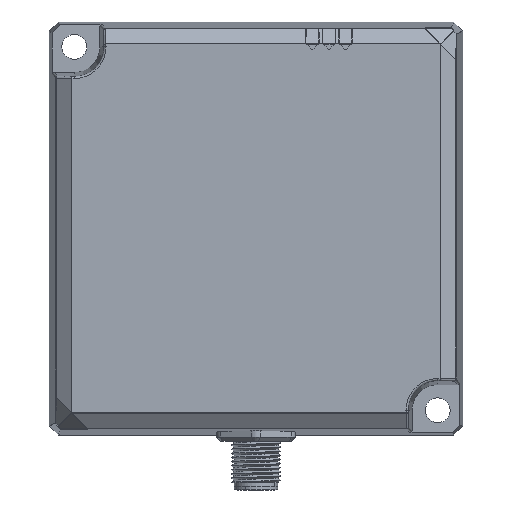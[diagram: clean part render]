
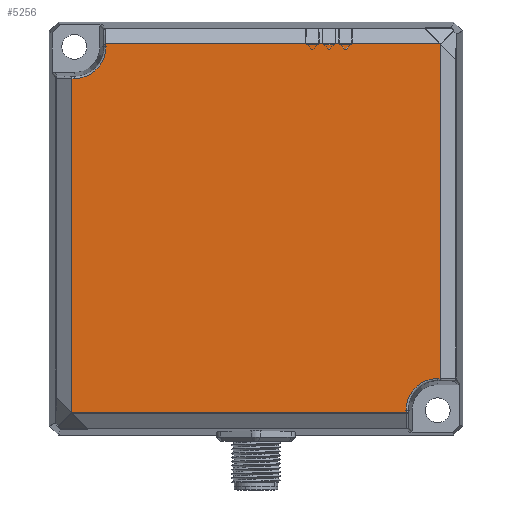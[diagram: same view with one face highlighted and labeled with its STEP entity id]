
A CAD part, front view. The second image highlights one B-rep face of the part: STEP entity #5256.
In plain terms, the highlighted planar face has unit normal (0, -1, 0) as drawn and (0, 1, 0) by its records, which use the part's own axes.
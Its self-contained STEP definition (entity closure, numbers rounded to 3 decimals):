
#21=DIRECTION('',(-1.,0.,0.));
#22=VECTOR('',#21,80.957);
#23=CARTESIAN_POINT('',(44.603,37.5,-44.717));
#24=LINE('',#23,#22);
#574=CARTESIAN_POINT('',(44.603,37.5,36.333));
#575=CARTESIAN_POINT('',(44.539,37.5,36.33));
#576=CARTESIAN_POINT('',(44.409,37.5,36.326));
#577=CARTESIAN_POINT('',(44.208,37.5,36.326));
#578=CARTESIAN_POINT('',(44.07,37.5,36.322));
#579=CARTESIAN_POINT('',(44.,37.5,36.321));
#581=CARTESIAN_POINT('',(44.,37.5,44.));
#582=DIRECTION('',(0.,1.,0.));
#583=DIRECTION('',(0.,0.,-1.));
#584=AXIS2_PLACEMENT_3D('',#581,#582,#583);
#586=CARTESIAN_POINT('',(36.321,37.5,44.));
#587=CARTESIAN_POINT('',(36.32,37.5,44.067));
#588=CARTESIAN_POINT('',(36.322,37.5,44.202));
#589=CARTESIAN_POINT('',(36.331,37.5,44.403));
#590=CARTESIAN_POINT('',(36.34,37.5,44.536));
#591=CARTESIAN_POINT('',(36.346,37.5,44.603));
#593=CARTESIAN_POINT('',(-44.,37.5,-44.));
#594=DIRECTION('',(0.,1.,0.));
#595=DIRECTION('',(-0.093,0.,0.996));
#596=AXIS2_PLACEMENT_3D('',#593,#594,#595);
#598=CARTESIAN_POINT('',(-44.601,37.5,-36.344));
#599=CARTESIAN_POINT('',(-44.536,37.5,-36.339));
#600=CARTESIAN_POINT('',(-44.405,37.5,-36.33));
#601=CARTESIAN_POINT('',(-44.204,37.5,-36.323));
#602=CARTESIAN_POINT('',(-44.068,37.5,-36.321));
#603=CARTESIAN_POINT('',(-44.,37.5,-36.321));
#605=CARTESIAN_POINT('',(-44.,37.5,-44.));
#606=DIRECTION('',(0.,1.,0.));
#607=DIRECTION('',(0.,0.,1.));
#608=AXIS2_PLACEMENT_3D('',#605,#606,#607);
#610=CARTESIAN_POINT('',(-36.321,37.5,-44.));
#611=CARTESIAN_POINT('',(-36.321,37.5,-44.068));
#612=CARTESIAN_POINT('',(-36.323,37.5,-44.204));
#613=CARTESIAN_POINT('',(-36.33,37.5,-44.405));
#614=CARTESIAN_POINT('',(-36.339,37.5,-44.536));
#615=CARTESIAN_POINT('',(-36.344,37.5,-44.601));
#617=CARTESIAN_POINT('',(-44.,37.5,-44.));
#618=DIRECTION('',(0.,1.,0.));
#619=DIRECTION('',(0.997,0.,-0.078));
#620=AXIS2_PLACEMENT_3D('',#617,#618,#619);
#622=DIRECTION('',(0.,0.,-1.));
#623=VECTOR('',#622,80.935);
#624=CARTESIAN_POINT('',(44.603,37.5,36.333));
#625=LINE('',#624,#623);
#649=DIRECTION('',(0.,0.,-1.));
#650=VECTOR('',#649,0.114);
#651=CARTESIAN_POINT('',(44.603,37.5,-44.603));
#652=LINE('',#651,#650);
#1560=DIRECTION('',(0.,0.,1.));
#1561=VECTOR('',#1560,80.957);
#1562=CARTESIAN_POINT('',(-44.717,37.5,-36.354));
#1563=LINE('',#1562,#1561);
#1631=DIRECTION('',(1.,0.,0.));
#1632=VECTOR('',#1631,0.114);
#1633=CARTESIAN_POINT('',(-44.717,37.5,44.603));
#1634=LINE('',#1633,#1632);
#1641=CARTESIAN_POINT('',(-44.603,37.5,44.603));
#1647=DIRECTION('',(1.,0.,0.));
#1648=VECTOR('',#1647,80.923);
#1649=CARTESIAN_POINT('',(-44.603,37.5,44.603));
#1650=LINE('',#1649,#1648);
#1662=CARTESIAN_POINT('',(36.321,37.5,44.603));
#1663=CARTESIAN_POINT('',(36.323,37.5,44.603));
#1664=CARTESIAN_POINT('',(36.329,37.5,44.603));
#1665=CARTESIAN_POINT('',(36.338,37.5,44.603));
#1666=CARTESIAN_POINT('',(36.343,37.5,44.603));
#1667=CARTESIAN_POINT('',(36.346,37.5,44.603));
#3550=CARTESIAN_POINT('',(44.603,37.5,-44.717));
#3551=VERTEX_POINT('',#3550);
#3552=CARTESIAN_POINT('',(-36.354,37.5,-44.717));
#3553=VERTEX_POINT('',#3552);
#3771=VERTEX_POINT('',#1641);
#3774=CARTESIAN_POINT('',(-44.717,37.5,44.603));
#3775=VERTEX_POINT('',#3774);
#3794=CARTESIAN_POINT('',(36.321,37.5,44.603));
#3795=VERTEX_POINT('',#3794);
#3797=CARTESIAN_POINT('',(44.603,37.5,36.333));
#3798=CARTESIAN_POINT('',(44.603,37.5,-44.603));
#3799=VERTEX_POINT('',#3797);
#3800=VERTEX_POINT('',#3798);
#3801=VERTEX_POINT('',#579);
#3802=CARTESIAN_POINT('',(36.321,37.5,44.));
#3803=VERTEX_POINT('',#3802);
#3804=VERTEX_POINT('',#591);
#3805=CARTESIAN_POINT('',(-44.717,37.5,-36.354));
#3806=VERTEX_POINT('',#3805);
#3807=CARTESIAN_POINT('',(-44.602,37.5,-36.344));
#3808=VERTEX_POINT('',#3807);
#3809=VERTEX_POINT('',#603);
#3810=CARTESIAN_POINT('',(-36.321,37.5,-44.));
#3811=VERTEX_POINT('',#3810);
#3812=VERTEX_POINT('',#615);
#5221=CARTESIAN_POINT('',(0.,37.5,0.));
#5222=DIRECTION('',(0.,1.,0.));
#5223=DIRECTION('',(1.,0.,0.));
#5224=AXIS2_PLACEMENT_3D('',#5221,#5222,#5223);
#5225=PLANE('',#5224);
#5227=ORIENTED_EDGE('',*,*,#5226,.F.);
#5229=ORIENTED_EDGE('',*,*,#5228,.T.);
#5231=ORIENTED_EDGE('',*,*,#5230,.T.);
#5233=ORIENTED_EDGE('',*,*,#5232,.T.);
#5235=ORIENTED_EDGE('',*,*,#5234,.F.);
#5237=ORIENTED_EDGE('',*,*,#5236,.F.);
#5239=ORIENTED_EDGE('',*,*,#5238,.F.);
#5241=ORIENTED_EDGE('',*,*,#5240,.F.);
#5243=ORIENTED_EDGE('',*,*,#5242,.T.);
#5245=ORIENTED_EDGE('',*,*,#5244,.T.);
#5247=ORIENTED_EDGE('',*,*,#5246,.T.);
#5249=ORIENTED_EDGE('',*,*,#5248,.T.);
#5250=ORIENTED_EDGE('',*,*,#5216,.T.);
#5251=ORIENTED_EDGE('',*,*,#4481,.F.);
#5253=ORIENTED_EDGE('',*,*,#5252,.F.);
#5254=EDGE_LOOP('',(#5227,#5229,#5231,#5233,#5235,#5237,#5239,#5241,#5243,#5245,
#5247,#5249,#5250,#5251,#5253));
#5255=FACE_OUTER_BOUND('',#5254,.F.);
#580=B_SPLINE_CURVE_WITH_KNOTS('',3,(#574,#575,#576,#577,#578,#579),
.UNSPECIFIED.,.F.,.F.,(4,1,1,4),(0.,0.333,0.667,1.),
.UNSPECIFIED.);
#585=CIRCLE('',#584,7.679);
#592=B_SPLINE_CURVE_WITH_KNOTS('',3,(#586,#587,#588,#589,#590,#591),
.UNSPECIFIED.,.F.,.F.,(4,1,1,4),(0.,0.333,0.667,1.),
.UNSPECIFIED.);
#597=CIRCLE('',#596,7.679);
#604=B_SPLINE_CURVE_WITH_KNOTS('',3,(#598,#599,#600,#601,#602,#603),
.UNSPECIFIED.,.F.,.F.,(4,1,1,4),(0.,0.333,0.667,1.),
.UNSPECIFIED.);
#609=CIRCLE('',#608,7.679);
#616=B_SPLINE_CURVE_WITH_KNOTS('',3,(#610,#611,#612,#613,#614,#615),
.UNSPECIFIED.,.F.,.F.,(4,1,1,4),(0.,0.333,0.667,1.),
.UNSPECIFIED.);
#621=CIRCLE('',#620,7.679);
#1668=B_SPLINE_CURVE_WITH_KNOTS('',3,(#1662,#1663,#1664,#1665,#1666,#1667),
.UNSPECIFIED.,.F.,.F.,(4,1,1,4),(0.,0.333,0.667,1.),
.UNSPECIFIED.);
#4481=EDGE_CURVE('',#3551,#3553,#24,.T.);
#5216=EDGE_CURVE('',#3812,#3553,#621,.T.);
#5226=EDGE_CURVE('',#3799,#3800,#625,.T.);
#5228=EDGE_CURVE('',#3799,#3801,#580,.T.);
#5230=EDGE_CURVE('',#3801,#3803,#585,.T.);
#5232=EDGE_CURVE('',#3803,#3804,#592,.T.);
#5234=EDGE_CURVE('',#3795,#3804,#1668,.T.);
#5236=EDGE_CURVE('',#3771,#3795,#1650,.T.);
#5238=EDGE_CURVE('',#3775,#3771,#1634,.T.);
#5240=EDGE_CURVE('',#3806,#3775,#1563,.T.);
#5242=EDGE_CURVE('',#3806,#3808,#597,.T.);
#5244=EDGE_CURVE('',#3808,#3809,#604,.T.);
#5246=EDGE_CURVE('',#3809,#3811,#609,.T.);
#5248=EDGE_CURVE('',#3811,#3812,#616,.T.);
#5252=EDGE_CURVE('',#3800,#3551,#652,.T.);
#5256=ADVANCED_FACE('',(#5255),#5225,.T.);
